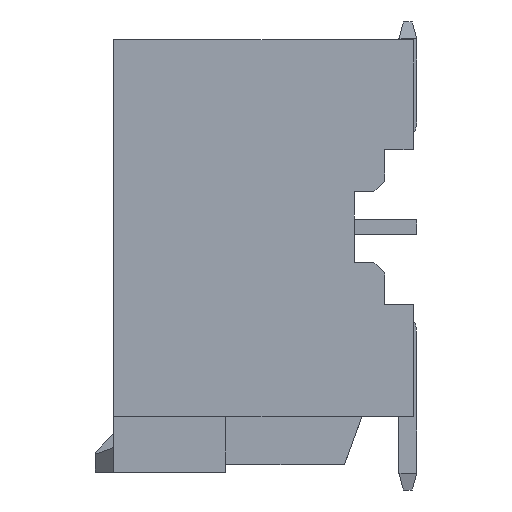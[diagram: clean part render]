
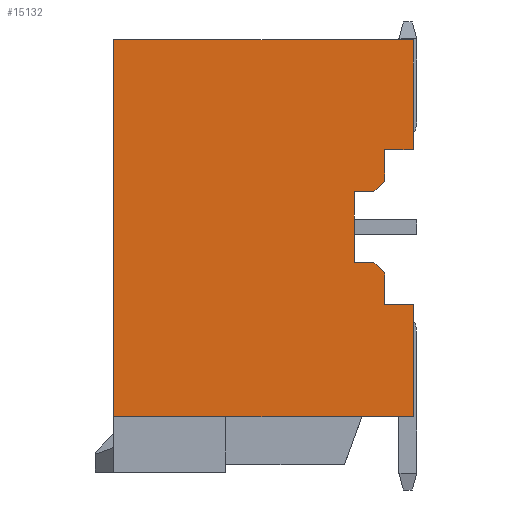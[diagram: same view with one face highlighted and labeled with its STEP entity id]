
A CAD part, left-side view. The second image highlights one B-rep face of the part: STEP entity #15132.
In plain terms, the highlighted planar face has unit normal (-1, 0, 0).
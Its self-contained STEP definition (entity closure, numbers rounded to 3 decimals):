
#2329=DIRECTION('',(0.,-1.,0.));
#2330=VECTOR('',#2329,8.38);
#2331=CARTESIAN_POINT('',(-15.05,-2.52,-5.255));
#2332=LINE('',#2331,#2330);
#2333=DIRECTION('',(0.,0.,1.));
#2334=VECTOR('',#2333,10.55);
#2335=CARTESIAN_POINT('',(-15.05,-2.52,-5.255));
#2336=LINE('',#2335,#2334);
#2337=DIRECTION('',(0.,1.,0.));
#2338=VECTOR('',#2337,0.8);
#2339=CARTESIAN_POINT('',(-15.05,-10.9,2.225));
#2340=LINE('',#2339,#2338);
#2341=DIRECTION('',(0.,0.,1.));
#2342=VECTOR('',#2341,0.885);
#2343=CARTESIAN_POINT('',(-15.05,-10.1,1.34));
#2344=LINE('',#2343,#2342);
#2345=DIRECTION('',(0.,-0.707,0.707));
#2346=VECTOR('',#2345,0.424);
#2347=CARTESIAN_POINT('',(-15.05,-9.8,1.04));
#2348=LINE('',#2347,#2346);
#2349=DIRECTION('',(0.,-1.,0.));
#2350=VECTOR('',#2349,0.55);
#2351=CARTESIAN_POINT('',(-15.05,-9.25,1.04));
#2352=LINE('',#2351,#2350);
#2353=DIRECTION('',(0.,0.,1.));
#2354=VECTOR('',#2353,1.97);
#2355=CARTESIAN_POINT('',(-15.05,-9.25,-0.93));
#2356=LINE('',#2355,#2354);
#2357=DIRECTION('',(0.,1.,0.));
#2358=VECTOR('',#2357,0.55);
#2359=CARTESIAN_POINT('',(-15.05,-9.8,-0.93));
#2360=LINE('',#2359,#2358);
#2361=DIRECTION('',(0.,0.707,0.707));
#2362=VECTOR('',#2361,0.424);
#2363=CARTESIAN_POINT('',(-15.05,-10.1,-1.23));
#2364=LINE('',#2363,#2362);
#2365=DIRECTION('',(0.,0.,1.));
#2366=VECTOR('',#2365,0.885);
#2367=CARTESIAN_POINT('',(-15.05,-10.1,-2.115));
#2368=LINE('',#2367,#2366);
#2369=DIRECTION('',(0.,1.,0.));
#2370=VECTOR('',#2369,0.8);
#2371=CARTESIAN_POINT('',(-15.05,-10.9,-2.115));
#2372=LINE('',#2371,#2370);
#3169=DIRECTION('',(0.,0.,1.));
#3170=VECTOR('',#3169,3.14);
#3171=CARTESIAN_POINT('',(-15.05,-10.9,-5.255));
#3172=LINE('',#3171,#3170);
#3181=DIRECTION('',(0.,0.,1.));
#3182=VECTOR('',#3181,3.07);
#3183=CARTESIAN_POINT('',(-15.05,-10.9,2.225));
#3184=LINE('',#3183,#3182);
#8789=DIRECTION('',(0.,-1.,0.));
#8790=VECTOR('',#8789,8.38);
#8791=CARTESIAN_POINT('',(-15.05,-2.52,5.295));
#8792=LINE('',#8791,#8790);
#9685=CARTESIAN_POINT('',(-15.05,-2.52,5.295));
#9686=CARTESIAN_POINT('',(-15.05,-10.9,5.295));
#9687=VERTEX_POINT('',#9685);
#9688=VERTEX_POINT('',#9686);
#9717=CARTESIAN_POINT('',(-15.05,-10.9,-2.115));
#9718=CARTESIAN_POINT('',(-15.05,-10.1,-2.115));
#9719=VERTEX_POINT('',#9717);
#9720=VERTEX_POINT('',#9718);
#9721=CARTESIAN_POINT('',(-15.05,-10.1,-1.23));
#9722=VERTEX_POINT('',#9721);
#9723=CARTESIAN_POINT('',(-15.05,-9.8,-0.93));
#9724=VERTEX_POINT('',#9723);
#9725=CARTESIAN_POINT('',(-15.05,-9.25,-0.93));
#9726=VERTEX_POINT('',#9725);
#9727=CARTESIAN_POINT('',(-15.05,-9.25,1.04));
#9728=VERTEX_POINT('',#9727);
#9729=CARTESIAN_POINT('',(-15.05,-9.8,1.04));
#9730=VERTEX_POINT('',#9729);
#9731=CARTESIAN_POINT('',(-15.05,-10.1,1.34));
#9732=VERTEX_POINT('',#9731);
#9733=CARTESIAN_POINT('',(-15.05,-10.1,2.225));
#9734=VERTEX_POINT('',#9733);
#9735=CARTESIAN_POINT('',(-15.05,-10.9,2.225));
#9736=VERTEX_POINT('',#9735);
#9773=CARTESIAN_POINT('',(-15.05,-2.52,-5.255));
#9774=CARTESIAN_POINT('',(-15.05,-10.9,-5.255));
#9775=VERTEX_POINT('',#9773);
#9776=VERTEX_POINT('',#9774);
#15098=CARTESIAN_POINT('',(-15.05,-2.52,-6.805));
#15099=DIRECTION('',(-1.,0.,0.));
#15100=DIRECTION('',(0.,-1.,0.));
#15101=AXIS2_PLACEMENT_3D('',#15098,#15099,#15100);
#15102=PLANE('',#15101);
#15104=ORIENTED_EDGE('',*,*,#15103,.F.);
#15106=ORIENTED_EDGE('',*,*,#15105,.T.);
#15108=ORIENTED_EDGE('',*,*,#15107,.T.);
#15110=ORIENTED_EDGE('',*,*,#15109,.F.);
#15112=ORIENTED_EDGE('',*,*,#15111,.T.);
#15114=ORIENTED_EDGE('',*,*,#15113,.F.);
#15116=ORIENTED_EDGE('',*,*,#15115,.F.);
#15118=ORIENTED_EDGE('',*,*,#15117,.F.);
#15119=ORIENTED_EDGE('',*,*,#15048,.F.);
#15121=ORIENTED_EDGE('',*,*,#15120,.F.);
#15123=ORIENTED_EDGE('',*,*,#15122,.F.);
#15125=ORIENTED_EDGE('',*,*,#15124,.F.);
#15127=ORIENTED_EDGE('',*,*,#15126,.F.);
#15129=ORIENTED_EDGE('',*,*,#15128,.F.);
#15130=EDGE_LOOP('',(#15104,#15106,#15108,#15110,#15112,#15114,#15116,#15118,
#15119,#15121,#15123,#15125,#15127,#15129));
#15131=FACE_OUTER_BOUND('',#15130,.F.);
#15132=ADVANCED_FACE('',(#15131),#15102,.T.);
#15048=EDGE_CURVE('',#9726,#9728,#2356,.T.);
#15103=EDGE_CURVE('',#9775,#9776,#2332,.T.);
#15105=EDGE_CURVE('',#9775,#9687,#2336,.T.);
#15107=EDGE_CURVE('',#9687,#9688,#8792,.T.);
#15109=EDGE_CURVE('',#9736,#9688,#3184,.T.);
#15111=EDGE_CURVE('',#9736,#9734,#2340,.T.);
#15113=EDGE_CURVE('',#9732,#9734,#2344,.T.);
#15115=EDGE_CURVE('',#9730,#9732,#2348,.T.);
#15117=EDGE_CURVE('',#9728,#9730,#2352,.T.);
#15120=EDGE_CURVE('',#9724,#9726,#2360,.T.);
#15122=EDGE_CURVE('',#9722,#9724,#2364,.T.);
#15124=EDGE_CURVE('',#9720,#9722,#2368,.T.);
#15126=EDGE_CURVE('',#9719,#9720,#2372,.T.);
#15128=EDGE_CURVE('',#9776,#9719,#3172,.T.);
